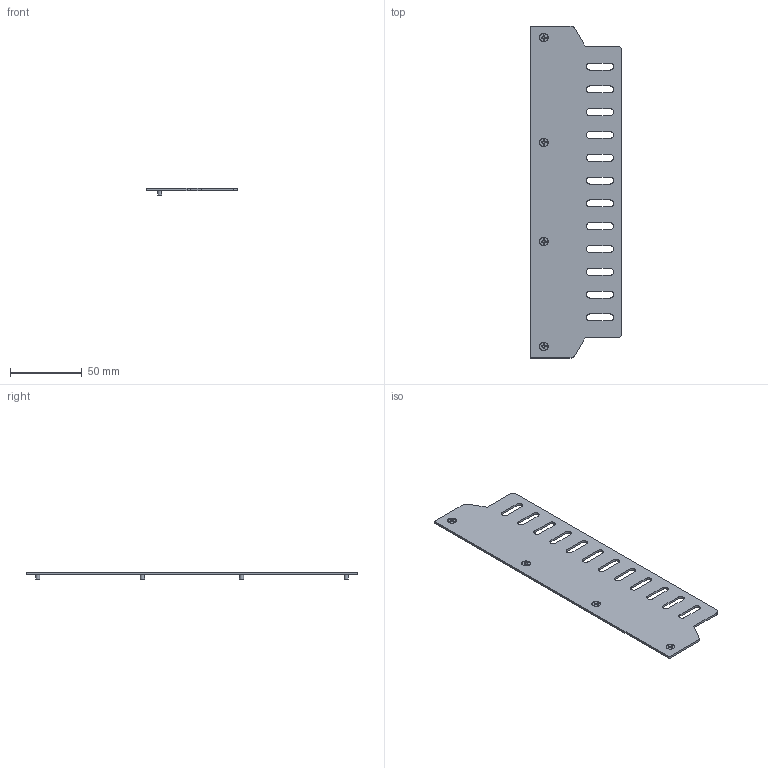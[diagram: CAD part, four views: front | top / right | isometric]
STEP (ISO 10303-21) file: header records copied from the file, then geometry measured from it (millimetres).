
FILE_DESCRIPTION((''),'2;1');
FILE_NAME('C:\old_Drawings\shrinkwrapped website .stp files\561989-STP.stp','2012-05-22T13:13:00',('GaryRobinson'),(''),'Autodesk Inventor 2011','Autodesk Inventor 2011','');
FILE_SCHEMA(('AUTOMOTIVE_DESIGN { 1 0 10303 214 1 1 1 1 }'));
Length unit declared in the file: inch
Products named in the file (1): 561989-STP
Bounding box: 63.5 x 231.14 x 4.88 mm (x, y, z)
Surface area: 27654.9 mm2 (no closed solid volume)
Topology: 0 solids, 7 shells, 102 faces, 386 edges, 280 vertices
Faces by surface type: cylinder 46, plane 42, cone 14
Full cylindrical faces by diameter (mm): 2.845 x4
Entity records: 4332 total; most frequent: CARTESIAN_POINT 1015, DIRECTION 654, ORIENTED_EDGE 588, EDGE_CURVE 364, VERTEX_POINT 276, AXIS2_PLACEMENT_3D 235, VECTOR 184, LINE 184
